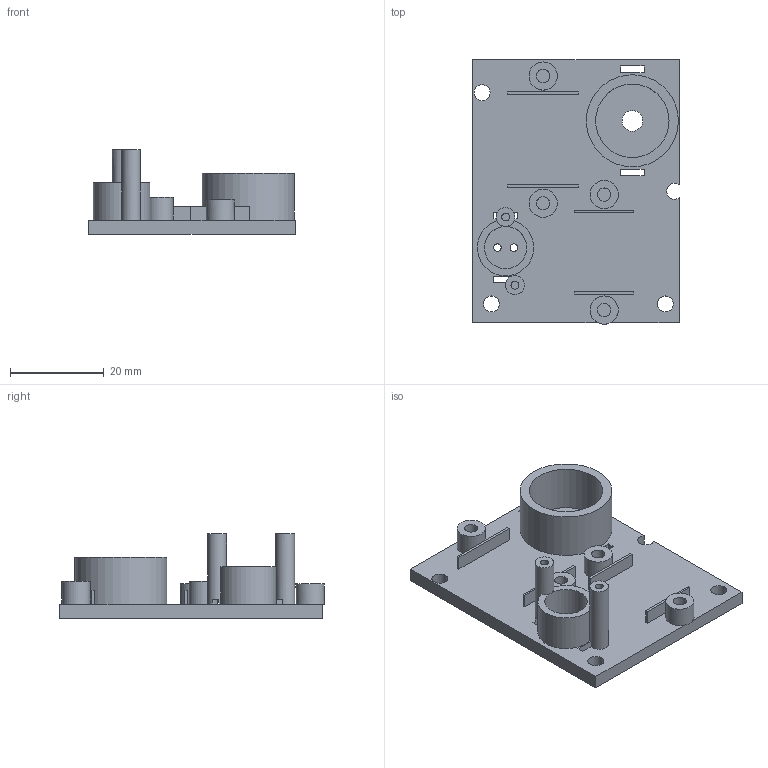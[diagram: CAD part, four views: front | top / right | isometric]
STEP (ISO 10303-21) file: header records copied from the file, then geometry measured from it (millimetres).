
FILE_DESCRIPTION(('Open CASCADE Model'),'2;1');
FILE_NAME('Open CASCADE Shape Model','2026-10-05T06:01:11',('Author'),( 'Open CASCADE'),'Open CASCADE STEP processor 7.8','Open CASCADE 7.8' ,'Unknown');
FILE_SCHEMA(('AUTOMOTIVE_DESIGN { 1 0 10303 214 1 1 1 1 }'));
Length unit declared in the file: millimetre
Products named in the file (1): Open CASCADE STEP translator 7.8 22
Bounding box: 44 x 56.3 x 18 mm (x, y, z)
Volume: 9363.8 mm3; surface area: 8701.4 mm2
Topology: 1 solids, 1 shells, 85 faces, 207 edges, 137 vertices
Faces by surface type: plane 62, cylinder 23
Full cylindrical faces by diameter (mm): 1.6 x2, 1.7 x2, 2.8 x4, 3.4 x3, 4 x2, 4.4 x1, 6 x4, 9 x1, 15.64 x1, 19.6 x1
Entity records: 5264 total; most frequent: CARTESIAN_POINT 1146, DIRECTION 729, LINE 419, VECTOR 419, ORIENTED_EDGE 414, PCURVE 414, DEFINITIONAL_REPRESENTATION 414, EDGE_CURVE 207
